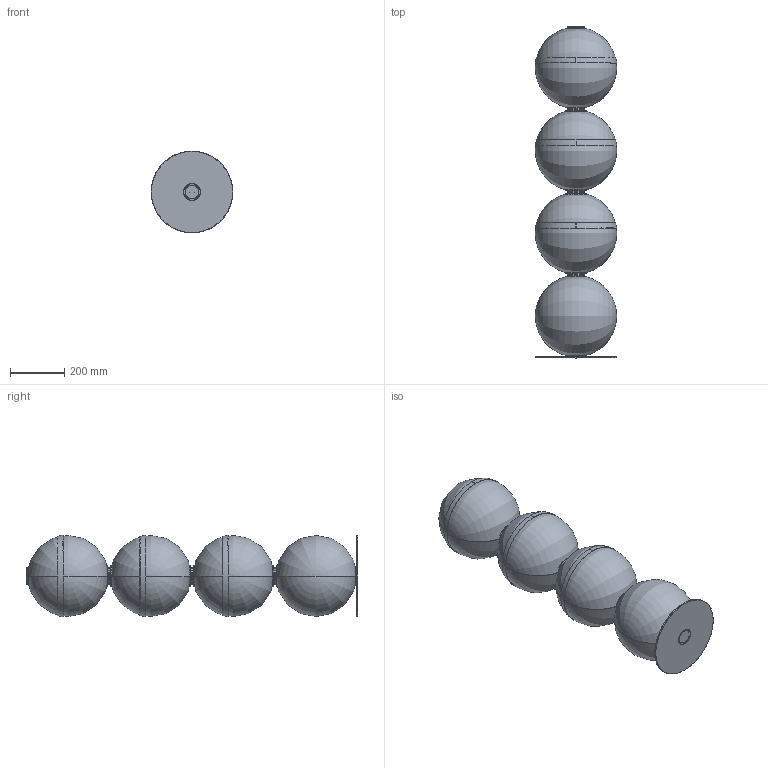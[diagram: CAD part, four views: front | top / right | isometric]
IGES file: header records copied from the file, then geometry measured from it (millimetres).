
Start section: SolidWorks IGES file using analytic representation for surfaces
Global section: file name: C:\Users\Agustin\Desktop\COMPARTIDA\Nueva Coleccion Septiembre 2026\TOULON_1365\TOULON_P1365\3D\TOULON_P1365.IGS; native system: SolidWorks 2023; preprocessor: SolidWorks 2023; author: Agustin; date: 260703.120207; units: millimetre
Bounding box: 301.86 x 1226 x 301.86 mm (x, y, z)
Surface area: 1821595.4 mm2 (no closed solid volume)
Topology: 0 solids, 0 shells, 289 faces, 5641 edges, 5633 vertices
Faces by surface type: revolution 185, bspline 104
